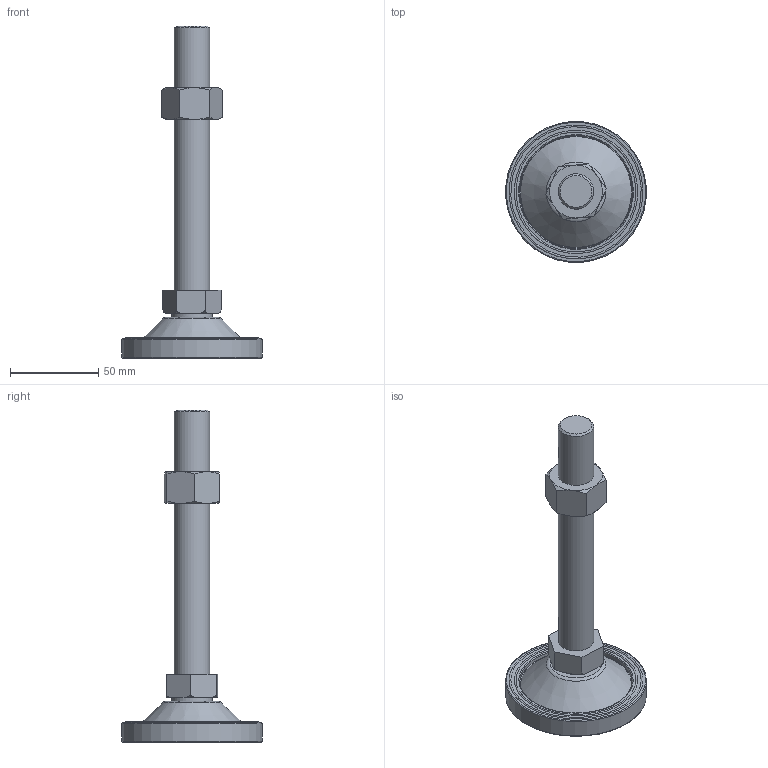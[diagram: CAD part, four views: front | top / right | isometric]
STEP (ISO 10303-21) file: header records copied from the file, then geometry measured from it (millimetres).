
FILE_DESCRIPTION((' '),'2;1');
FILE_NAME('Y:\00. A standard brand\06. 3D Modeling\외부전송용_STEP\LEVELLING FOOT(STEP)\A-PLR SERIES STEP\A-PLR-20-150.stp.stp','2011-11-22T18:45:00',(' '),(' '),' ','ACIS',' ');
FILE_SCHEMA(('CONFIG_CONTROL_DESIGN'));
Length unit declared in the file: millimetre
Products named in the file (1): Y:\00. A standard brand\06. 3D Modeling\외부전송용_STEP\LEVELLING FOOT(STEP)\A-PLR SERIES STEP\A-PLR-20-150.stp.stp
Bounding box: 79.77 x 79.77 x 188.31 mm (x, y, z)
Volume: 112883.9 mm3; surface area: 37237 mm2
Topology: 3 solids, 4 shells, 115 faces, 255 edges, 159 vertices
Faces by surface type: plane 56, cylinder 20, cone 17, torus 15, bspline 7
Full cylindrical faces by diameter (mm): 8 x1, 12 x2, 19.27 x1, 20 x2, 23 x1, 36 x1, 51 x1, 64 x2, 80 x1
Entity records: 3416 total; most frequent: CARTESIAN_POINT 997, DIRECTION 480, ORIENTED_EDGE 426, EDGE_CURVE 213, AXIS2_PLACEMENT_3D 194, EDGE_LOOP 162, VERTEX_POINT 150, FACE_OUTER_BOUND 115
